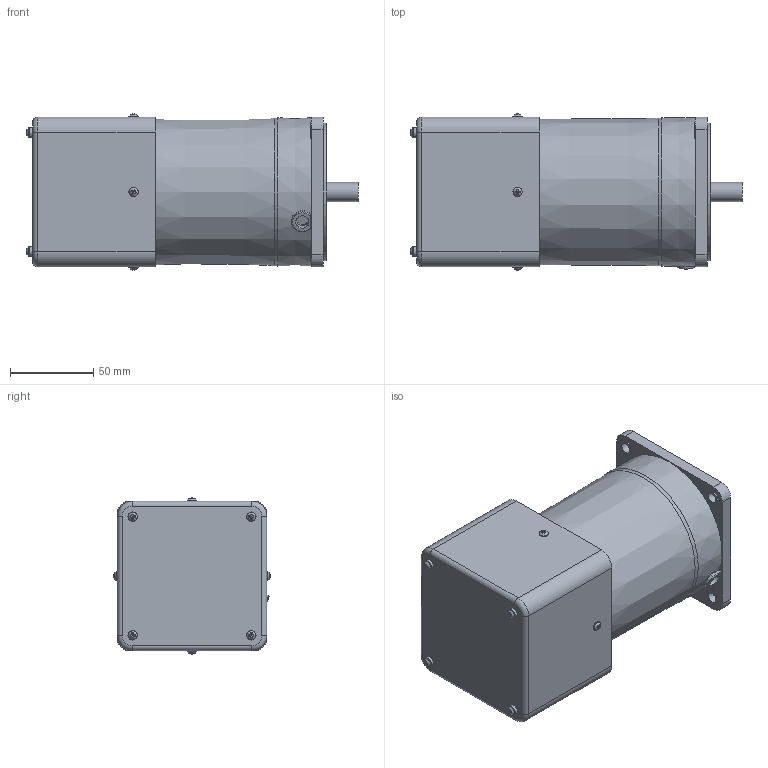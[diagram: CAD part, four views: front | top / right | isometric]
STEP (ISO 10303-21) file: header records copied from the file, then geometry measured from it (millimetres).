
FILE_DESCRIPTION((''),'2;1');
FILE_NAME('D:\STP파일\90W MOTOR\SPEED CONTROL\S9I90G-S.stp','2013-05-20T18:47:11',('leebh'),(''),'Autodesk Inventor 2011','Autodesk Inventor 2011','');
FILE_SCHEMA(('AUTOMOTIVE_DESIGN { 1 0 10303 214 1 1 1 1 }'));
Length unit declared in the file: millimetre
Products named in the file (1): S9I90G-T1
Bounding box: 199.75 x 93.89 x 93.89 mm (x, y, z)
Volume: 964305.2 mm3; surface area: 104751.8 mm2
Topology: 1 solids, 7 shells, 282 faces, 675 edges, 435 vertices
Faces by surface type: plane 173, cylinder 69, torus 26, bspline 8, cone 6
Full cylindrical faces by diameter (mm): 3 x8, 4.5 x4, 5.6 x12, 6.5 x4, 8 x1, 9.5 x4, 10 x1, 11.5 x1, 40 x1, 83 x1
Entity records: 8543 total; most frequent: CARTESIAN_POINT 2203, DIRECTION 1216, ORIENTED_EDGE 1186, EDGE_CURVE 593, AXIS2_PLACEMENT_3D 449, VERTEX_POINT 422, EDGE_LOOP 397, VECTOR 318
